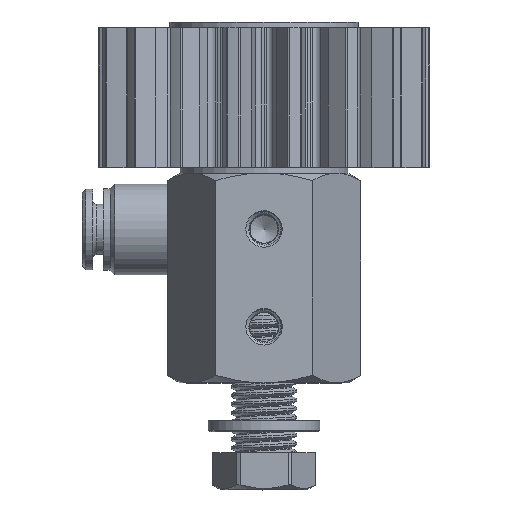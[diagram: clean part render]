
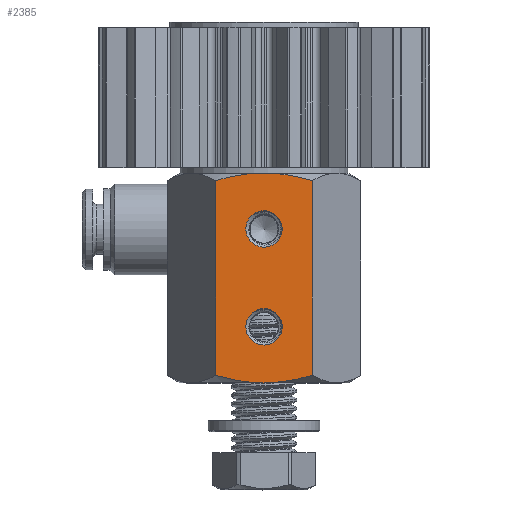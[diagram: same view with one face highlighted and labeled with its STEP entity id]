
A CAD part, top view. The second image highlights one B-rep face of the part: STEP entity #2385.
In plain terms, the highlighted planar face has unit normal (0, 0, 1).
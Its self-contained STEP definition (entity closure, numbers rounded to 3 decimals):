
#384 = DIRECTION ( 'NONE',  ( 0., 0., -1. ) ) ;
#1590 = EDGE_LOOP ( 'NONE', ( #13994 ) ) ;
#2385 = ADVANCED_FACE ( 'NONE', ( #25705, #15308, #22251 ), #19009, .T. ) ;
#2899 = CARTESIAN_POINT ( 'NONE',  ( -5.801, 29.254, 12. ) ) ;
#3422 = DIRECTION ( 'NONE',  ( 0., -1., 0. ) ) ;
#3869 = ORIENTED_EDGE ( 'NONE', *, *, #35110, .T. ) ;
#4671 = DIRECTION ( 'NONE',  ( 0., 0., 1. ) ) ;
#4953 = CARTESIAN_POINT ( 'NONE',  ( 0., 0., 12. ) ) ;
#5262 = DIRECTION ( 'NONE',  ( 0., -1., 0. ) ) ;
#6760 = CARTESIAN_POINT ( 'NONE',  ( 2.354, 29.897, 12. ) ) ;
#7709 = CARTESIAN_POINT ( 'NONE',  ( -6.928, 1.072, 12. ) ) ;
#8781 = VECTOR ( 'NONE', #3422, 1000. ) ;
#9467 = CARTESIAN_POINT ( 'NONE',  ( 0., 0., 12. ) ) ;
#10720 = CARTESIAN_POINT ( 'NONE',  ( -4.661, 0.477, 12. ) ) ;
#12097 = CARTESIAN_POINT ( 'NONE',  ( 1.183, 0.026, 12. ) ) ;
#12844 = CARTESIAN_POINT ( 'NONE',  ( -2.933, 29.803, 12. ) ) ;
#13994 = ORIENTED_EDGE ( 'NONE', *, *, #41346, .F. ) ;
#14663 = CARTESIAN_POINT ( 'NONE',  ( 0., 0., 12. ) ) ;
#15308 = FACE_BOUND ( 'NONE', #20580, .T. ) ;
#16323 = CARTESIAN_POINT ( 'NONE',  ( -1.183, 29.974, 12. ) ) ;
#17141 = EDGE_CURVE ( 'NONE', #20405, #44439, #43164, .T. ) ;
#17185 = VERTEX_POINT ( 'NONE', #32467 ) ;
#17574 = DIRECTION ( 'NONE',  ( 0., 0., 1. ) ) ;
#18356 = CARTESIAN_POINT ( 'NONE',  ( -5.8, 0.746, 12. ) ) ;
#18500 = CARTESIAN_POINT ( 'NONE',  ( -6.928, 28.928, 12. ) ) ;
#18549 = CARTESIAN_POINT ( 'NONE',  ( 6.928, 30., 12. ) ) ;
#18567 = AXIS2_PLACEMENT_3D ( 'NONE', #24515, #17574, #31682 ) ;
#19009 = PLANE ( 'NONE',  #30793 ) ;
#19265 = CIRCLE ( 'NONE', #45099, 2.6 ) ;
#20119 = CARTESIAN_POINT ( 'NONE',  ( -2.6, 22., 12. ) ) ;
#20405 = VERTEX_POINT ( 'NONE', #36780 ) ;
#20468 = CARTESIAN_POINT ( 'NONE',  ( -6.928, 28.928, 12. ) ) ;
#20580 = EDGE_LOOP ( 'NONE', ( #37670 ) ) ;
#20738 = CARTESIAN_POINT ( 'NONE',  ( 0., 22., 12. ) ) ;
#20772 = LINE ( 'NONE', #39018, #8781 ) ;
#20942 = CARTESIAN_POINT ( 'NONE',  ( -1.186, 0., 12. ) ) ;
#22251 = FACE_OUTER_BOUND ( 'NONE', #30226, .T. ) ;
#22629 = VERTEX_POINT ( 'NONE', #37363 ) ;
#22738 = ORIENTED_EDGE ( 'NONE', *, *, #36173, .T. ) ;
#22831 = LINE ( 'NONE', #37167, #34867 ) ;
#23141 = EDGE_CURVE ( 'NONE', #44097, #20405, #20772, .T. ) ;
#24238 = ORIENTED_EDGE ( 'NONE', *, *, #17141, .T. ) ;
#24348 = CARTESIAN_POINT ( 'NONE',  ( 6.928, 28.928, 12. ) ) ;
#24506 = CARTESIAN_POINT ( 'NONE',  ( 2.6, 8., 12. ) ) ;
#24515 = CARTESIAN_POINT ( 'NONE',  ( 0., 8., 12. ) ) ;
#25705 = FACE_BOUND ( 'NONE', #1590, .T. ) ;
#26920 = CARTESIAN_POINT ( 'NONE',  ( 2.933, 0.197, 12. ) ) ;
#27345 = CARTESIAN_POINT ( 'NONE',  ( 4.661, 29.523, 12. ) ) ;
#27580 = CARTESIAN_POINT ( 'NONE',  ( 1.186, 30., 12. ) ) ;
#29068 = CARTESIAN_POINT ( 'NONE',  ( 0., 30., 12. ) ) ;
#29179 = EDGE_CURVE ( 'NONE', #32251, #44097, #41567, .T. ) ;
#29716 = CARTESIAN_POINT ( 'NONE',  ( 2.353, 0.124, 12. ) ) ;
#30130 = B_SPLINE_CURVE_WITH_KNOTS ( 'NONE', 3,
 ( #24348, #45138, #27345, #6760, #27580, #37774 ),
 .UNSPECIFIED., .F., .F.,
 ( 4, 2, 4 ),
 ( 0.015, 0.019, 0.022 ),
 .UNSPECIFIED. ) ;
#30193 = CARTESIAN_POINT ( 'NONE',  ( -4.663, 29.523, 12. ) ) ;
#30226 = EDGE_LOOP ( 'NONE', ( #22738, #36653, #32056, #24238, #3869, #39888 ) ) ;
#30793 = AXIS2_PLACEMENT_3D ( 'NONE', #18549, #4671, #36120 ) ;
#31682 = DIRECTION ( 'NONE',  ( 1., 0., 0. ) ) ;
#31830 = DIRECTION ( 'NONE',  ( -1., 0., 0. ) ) ;
#32056 = ORIENTED_EDGE ( 'NONE', *, *, #23141, .T. ) ;
#32251 = VERTEX_POINT ( 'NONE', #29068 ) ;
#32467 = CARTESIAN_POINT ( 'NONE',  ( 6.928, 1.072, 12. ) ) ;
#33187 = CARTESIAN_POINT ( 'NONE',  ( 0.593, 0., 12. ) ) ;
#33417 = CARTESIAN_POINT ( 'NONE',  ( 4.663, 0.477, 12. ) ) ;
#34135 = CARTESIAN_POINT ( 'NONE',  ( -2.353, 29.876, 12. ) ) ;
#34867 = VECTOR ( 'NONE', #5262, 1000. ) ;
#35110 = EDGE_CURVE ( 'NONE', #44439, #17185, #43918, .T. ) ;
#36120 = DIRECTION ( 'NONE',  ( 1., 0., 0. ) ) ;
#36173 = EDGE_CURVE ( 'NONE', #22629, #32251, #30130, .T. ) ;
#36653 = ORIENTED_EDGE ( 'NONE', *, *, #29179, .T. ) ;
#36780 = CARTESIAN_POINT ( 'NONE',  ( -6.928, 1.072, 12. ) ) ;
#37167 = CARTESIAN_POINT ( 'NONE',  ( 6.928, 30., 12. ) ) ;
#37363 = CARTESIAN_POINT ( 'NONE',  ( 6.928, 28.928, 12. ) ) ;
#37670 = ORIENTED_EDGE ( 'NONE', *, *, #40783, .T. ) ;
#37774 = CARTESIAN_POINT ( 'NONE',  ( 0., 30., 12. ) ) ;
#38048 = CARTESIAN_POINT ( 'NONE',  ( -0.593, 30., 12. ) ) ;
#38377 = VERTEX_POINT ( 'NONE', #20119 ) ;
#38611 = VERTEX_POINT ( 'NONE', #24506 ) ;
#39018 = CARTESIAN_POINT ( 'NONE',  ( -6.928, 30., 12. ) ) ;
#39888 = ORIENTED_EDGE ( 'NONE', *, *, #44889, .F. ) ;
#40319 = CARTESIAN_POINT ( 'NONE',  ( 5.801, 0.746, 12. ) ) ;
#40783 = EDGE_CURVE ( 'NONE', #38377, #38377, #19265, .T. ) ;
#41020 = CARTESIAN_POINT ( 'NONE',  ( 6.928, 1.072, 12. ) ) ;
#41271 = CARTESIAN_POINT ( 'NONE',  ( 0., 30., 12. ) ) ;
#41346 = EDGE_CURVE ( 'NONE', #38611, #38611, #42101, .T. ) ;
#41567 = B_SPLINE_CURVE_WITH_KNOTS ( 'NONE', 3,
 ( #41271, #38048, #16323, #34135, #12844, #30193, #2899, #20468 ),
 .UNSPECIFIED., .F., .F.,
 ( 4, 2, 2, 4 ),
 ( 0.022, 0.024, 0.026, 0.029 ),
 .UNSPECIFIED. ) ;
#42101 = CIRCLE ( 'NONE', #18567, 2.6 ) ;
#42843 = CARTESIAN_POINT ( 'NONE',  ( -2.354, 0.103, 12. ) ) ;
#43164 = B_SPLINE_CURVE_WITH_KNOTS ( 'NONE', 3,
 ( #7709, #18356, #10720, #42843, #20942, #14663 ),
 .UNSPECIFIED., .F., .F.,
 ( 4, 2, 4 ),
 ( 0.015, 0.019, 0.022 ),
 .UNSPECIFIED. ) ;
#43918 = B_SPLINE_CURVE_WITH_KNOTS ( 'NONE', 3,
 ( #4953, #33187, #12097, #29716, #26920, #33417, #40319, #41020 ),
 .UNSPECIFIED., .F., .F.,
 ( 4, 2, 2, 4 ),
 ( 0.022, 0.024, 0.026, 0.029 ),
 .UNSPECIFIED. ) ;
#44097 = VERTEX_POINT ( 'NONE', #18500 ) ;
#44439 = VERTEX_POINT ( 'NONE', #9467 ) ;
#44889 = EDGE_CURVE ( 'NONE', #22629, #17185, #22831, .T. ) ;
#45099 = AXIS2_PLACEMENT_3D ( 'NONE', #20738, #384, #31830 ) ;
#45138 = CARTESIAN_POINT ( 'NONE',  ( 5.8, 29.254, 12. ) ) ;
